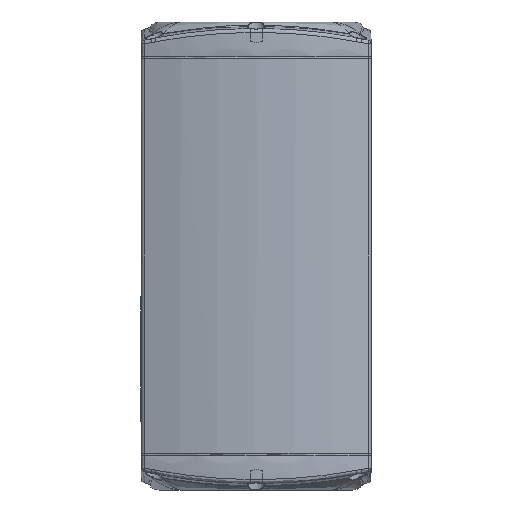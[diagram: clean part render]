
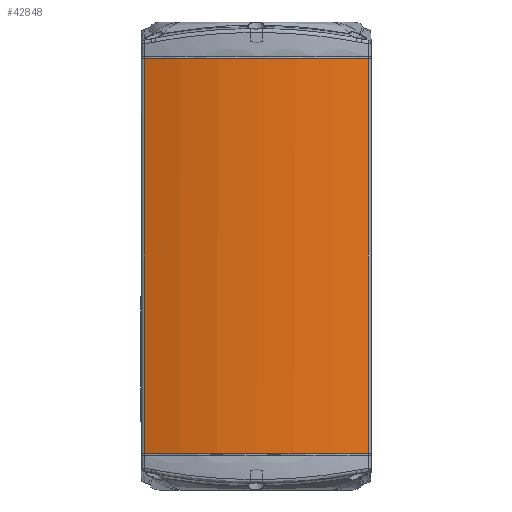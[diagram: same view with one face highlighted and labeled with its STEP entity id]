
A CAD part, front view. The second image highlights one B-rep face of the part: STEP entity #42848.
In plain terms, the highlighted cylindrical face has radius 175 mm (diameter 350 mm), a partial arc.
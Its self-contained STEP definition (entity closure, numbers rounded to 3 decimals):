
#1618=CARTESIAN_POINT('',(-54.617,-92.753,0.));
#1629=CARTESIAN_POINT('',(-1.278,-101.495,0.));
#1634=CARTESIAN_POINT('',(0.,73.5,0.));
#1635=DIRECTION('',(0.,0.,-1.));
#1636=DIRECTION('',(-0.007,-1.,0.));
#1637=AXIS2_PLACEMENT_3D('',#1634,#1635,#1636);
#1642=CARTESIAN_POINT('',(0.,73.5,0.));
#1643=DIRECTION('',(0.,0.,1.));
#1644=DIRECTION('',(-0.007,-1.,0.));
#1645=AXIS2_PLACEMENT_3D('',#1642,#1643,#1644);
#1650=DIRECTION('',(0.,0.,1.));
#1651=VECTOR('',#1650,192.);
#1652=CARTESIAN_POINT('',(-54.617,-92.753,0.));
#1653=LINE('',#1652,#1651);
#1657=CARTESIAN_POINT('',(0.,73.5,192.));
#1658=DIRECTION('',(0.,0.,-1.));
#1659=DIRECTION('',(0.007,-1.,0.));
#1660=AXIS2_PLACEMENT_3D('',#1657,#1658,#1659);
#1665=DIRECTION('',(0.,0.,-1.));
#1666=VECTOR('',#1665,192.);
#1667=CARTESIAN_POINT('',(54.617,-92.753,192.));
#1668=LINE('',#1667,#1666);
#1683=CARTESIAN_POINT('',(-54.617,-92.753,192.));
#1688=CARTESIAN_POINT('',(0.,73.5,192.));
#1689=DIRECTION('',(0.,0.,-1.));
#1690=DIRECTION('',(0.,-1.,0.));
#1691=AXIS2_PLACEMENT_3D('',#1688,#1689,#1690);
#1703=CARTESIAN_POINT('',(54.617,-92.753,192.));
#1714=CARTESIAN_POINT('',(1.278,-101.495,192.));
#1719=CARTESIAN_POINT('',(0.,73.5,192.));
#1720=DIRECTION('',(0.,0.,-1.));
#1721=DIRECTION('',(0.312,-0.95,0.));
#1722=AXIS2_PLACEMENT_3D('',#1719,#1720,#1721);
#37040=CARTESIAN_POINT('',(54.617,-92.753,0.));
#37045=CARTESIAN_POINT('',(0.,73.5,0.));
#37046=DIRECTION('',(0.,0.,-1.));
#37047=DIRECTION('',(0.312,-0.95,0.));
#37048=AXIS2_PLACEMENT_3D('',#37045,#37046,#37047);
#40366=VERTEX_POINT('',#1703);
#40367=VERTEX_POINT('',#1714);
#40368=CARTESIAN_POINT('',(-0.002,-101.5,192.));
#40369=VERTEX_POINT('',#40368);
#40370=VERTEX_POINT('',#1683);
#40675=VERTEX_POINT('',#1618);
#40676=VERTEX_POINT('',#1629);
#40677=CARTESIAN_POINT('',(0.002,-101.5,0.));
#40678=VERTEX_POINT('',#40677);
#40679=VERTEX_POINT('',#37040);
#42828=CARTESIAN_POINT('',(0.,73.5,0.));
#42829=DIRECTION('',(0.,0.,-1.));
#42830=DIRECTION('',(1.,0.,0.));
#42831=AXIS2_PLACEMENT_3D('',#42828,#42829,#42830);
#42832=CYLINDRICAL_SURFACE('',#42831,175.);
#42833=ORIENTED_EDGE('',*,*,#42786,.F.);
#42834=ORIENTED_EDGE('',*,*,#42811,.T.);
#42835=ORIENTED_EDGE('',*,*,#42712,.T.);
#42837=ORIENTED_EDGE('',*,*,#42836,.F.);
#42839=ORIENTED_EDGE('',*,*,#42838,.F.);
#42841=ORIENTED_EDGE('',*,*,#42840,.F.);
#42843=ORIENTED_EDGE('',*,*,#42842,.T.);
#42845=ORIENTED_EDGE('',*,*,#42844,.T.);
#42846=EDGE_LOOP('',(#42833,#42834,#42835,#42837,#42839,#42841,#42843,#42845));
#42847=FACE_OUTER_BOUND('',#42846,.F.);
#42848=ADVANCED_FACE('',(#42847),#42832,.T.);
#1638=CIRCLE('',#1637,175.);
#1646=CIRCLE('',#1645,175.);
#1661=CIRCLE('',#1660,175.);
#1692=CIRCLE('',#1691,175.);
#1723=CIRCLE('',#1722,175.);
#37049=CIRCLE('',#37048,175.);
#42712=EDGE_CURVE('',#40675,#40370,#1653,.T.);
#42786=EDGE_CURVE('',#40676,#40678,#1646,.T.);
#42811=EDGE_CURVE('',#40676,#40675,#1638,.T.);
#42836=EDGE_CURVE('',#40369,#40370,#1692,.T.);
#42838=EDGE_CURVE('',#40367,#40369,#1661,.T.);
#42840=EDGE_CURVE('',#40366,#40367,#1723,.T.);
#42842=EDGE_CURVE('',#40366,#40679,#1668,.T.);
#42844=EDGE_CURVE('',#40679,#40678,#37049,.T.);
